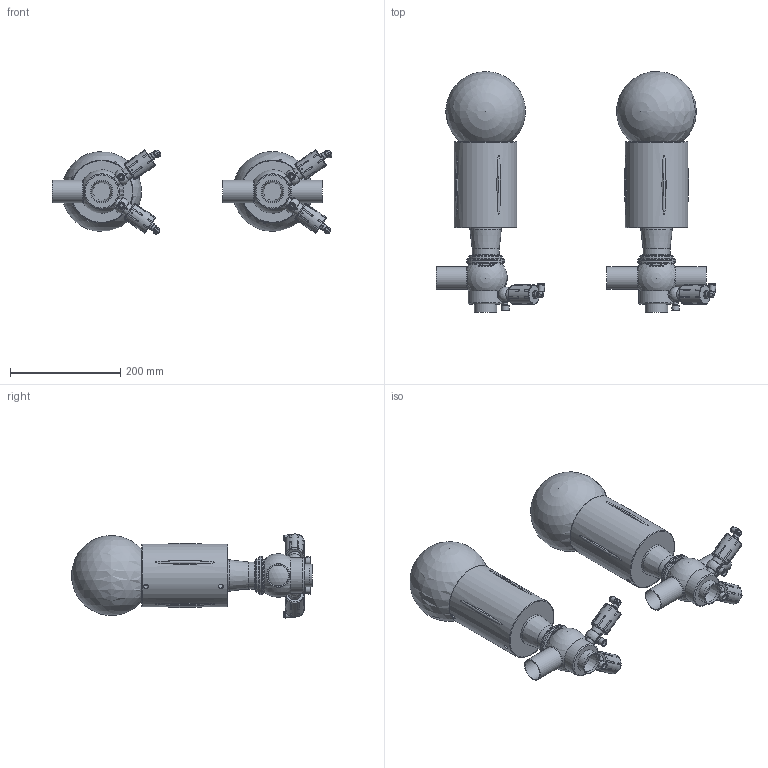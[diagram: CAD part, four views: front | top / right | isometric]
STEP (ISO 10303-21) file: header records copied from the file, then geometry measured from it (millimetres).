
FILE_DESCRIPTION(/* description */ (''),/* implementation_level */ '2;1');
FILE_NAME(/* name */ 'C:\Users\marz-m\Downloads\BZZAW3 3D STEP\BZAW3-DN040 41X1.5-SAL.stp',/* time_stamp */ '2018-09-26T11:03:58+02:00',/* author */ ('marz-m'),/* organization */ (''),/* preprocessor_version */ 'ST-DEVELOPER v17',/* originating_system */ 'Autodesk Inventor 2018',/* authorisation */ '');
FILE_SCHEMA (('AUTOMOTIVE_DESIGN { 1 0 10303 214 3 1 1 }'));
Length unit declared in the file: millimetre
Products named in the file (7): BZAW3-DN040 41X1.5-SAL; TRH5A0040BBA; TRH6A0040BBA; Assemblaggio-DN040; CIL108; SAGOMA-GIOTTO-; Valvolina 3A
Assembly tree (12 placements, depth 2):
  BZAW3-DN040 41X1.5-SAL
    SAGOMA-GIOTTO-  x2
    CIL108  x2
    Assemblaggio-DN040  x2
    TRH5A0040BBA
    TRH6A0040BBA
    Valvolina 3A  x4
Bounding box: 507.81 x 436.47 x 152.61 mm (x, y, z)
Volume: 5027615.9 mm3; surface area: 607073.3 mm2
Topology: 12 solids, 12 shells, 657 faces, 1890 edges, 1338 vertices
Faces by surface type: plane 283, cylinder 196, cone 91, bspline 44, torus 32, sphere 11
Full cylindrical faces by diameter (mm): 2 x8, 6 x16, 7 x4, 8 x4, 8.1 x4, 8.566 x4, 10 x4, 11 x4, 11.5 x4, 12.918 x4, 13.157 x4, 14 x4, 15.9 x4, 16 x4, 20 x4, 22 x4, 35 x4, 38 x5, 41 x5, 49 x2, 57 x2, 61 x2, 64 x2, 69 x4, 108.5 x2, 114 x2
Entity records: 10746 total; most frequent: CARTESIAN_POINT 4008, DIRECTION 1345, ORIENTED_EDGE 1342, EDGE_CURVE 671, AXIS2_PLACEMENT_3D 570, VERTEX_POINT 488, CIRCLE 318, EDGE_LOOP 285
